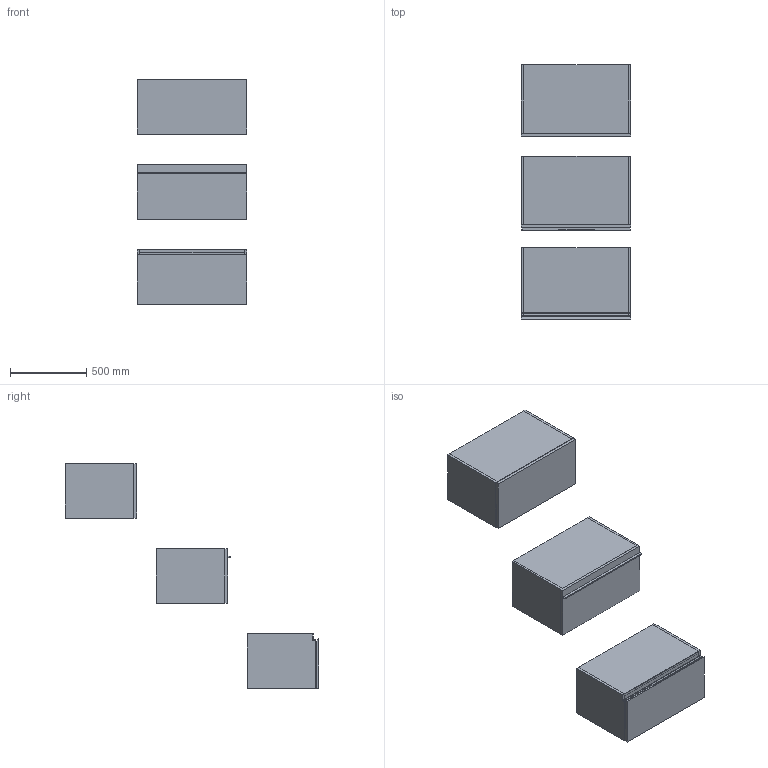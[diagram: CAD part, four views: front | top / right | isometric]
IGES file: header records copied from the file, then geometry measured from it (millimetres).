
Start section: Data from Parasolid IGES Translator 19.0.9, Copyright(c) 2006 Siemens PL M Software. All Rights Reserved.
Global section: file name: noorth-SI-H 36 D 47 W 72_8351.igs; native system: By Siemens PLM Incorporated; preprocessor: XPlus GENERIC/IGES 19.0.9; author: Noname; organization: Noname; date: 20200601.093505; units: metre
Bounding box: 720.01 x 1669.1 x 1480 mm (x, y, z)
Volume: 61176293.2 mm3; surface area: 9100361.6 mm2
Topology: 20 solids, 20 shells, 178 faces, 382 edges, 234 vertices
Faces by surface type: plane 134, extrusion 16, bspline 16, cylinder 12
